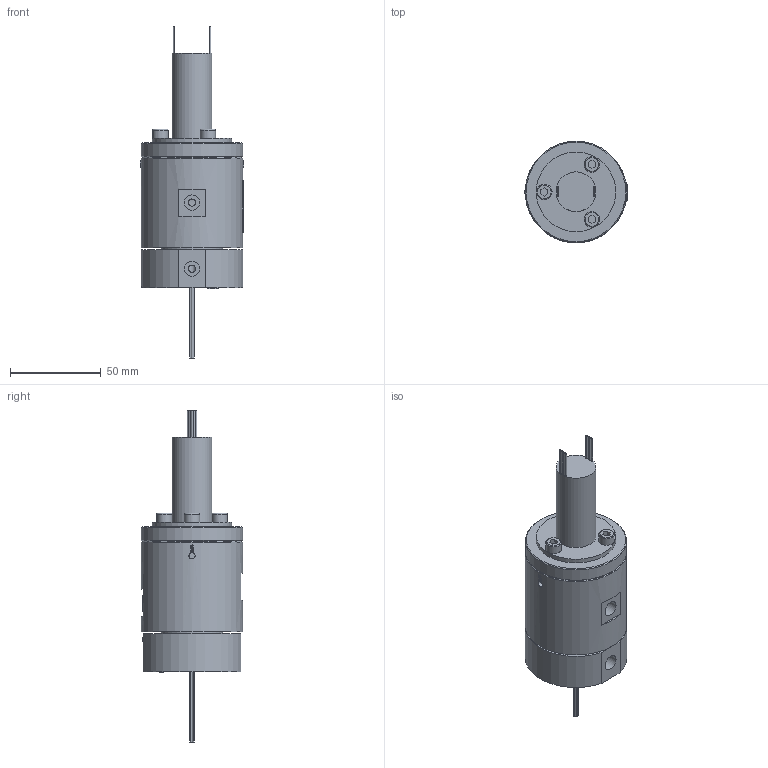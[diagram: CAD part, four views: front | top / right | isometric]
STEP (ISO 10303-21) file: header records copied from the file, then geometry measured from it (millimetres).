
FILE_DESCRIPTION(/* description */ (''),/* implementation_level */ '2;1');
FILE_NAME(/* name */ 'YQ0601-36M.stp',/* time_stamp */ '2025-02-15T15:23:45+08:00',/* author */ (''),/* organization */ (''),/* preprocessor_version */ 'ST-DEVELOPER v16.7',/* originating_system */ 'SIEMENS PLM Software NX 12.0',/* authorisation */ '');
FILE_SCHEMA (('AUTOMOTIVE_DESIGN { 1 0 10303 214 3 1 1 1 }'));
Products named in the file (1): HX0527348ECCpcfe
Bounding box: 57 x 56 x 183.3 mm (x, y, z)
Volume: 210698.4 mm3; surface area: 33526.1 mm2
Topology: 1 solids, 4 shells, 1191 faces, 3195 edges, 2131 vertices
Faces by surface type: extrusion 612, plane 459, cylinder 77, bspline 33, cone 7, torus 3
Full cylindrical faces by diameter (mm): 0.8 x16, 3.4 x6, 4 x6, 4.1 x2, 4.2 x2, 5 x3, 5.5 x3, 7.8 x1, 8 x1, 8.5 x7, 22 x1, 34 x1, 44 x1, 56 x2
Entity records: 45277 total; most frequent: CARTESIAN_POINT 20131, ORIENTED_EDGE 6188, EDGE_CURVE 3094, DIRECTION 2847, B_SPLINE_CURVE_WITH_KNOTS 2838, VERTEX_POINT 2103, EDGE_LOOP 1379, VECTOR 1201
